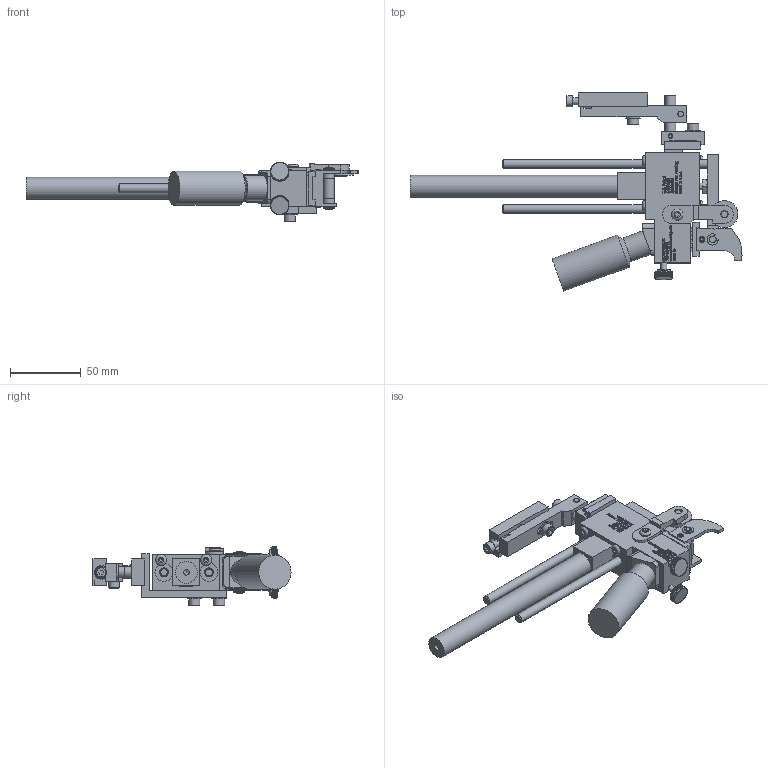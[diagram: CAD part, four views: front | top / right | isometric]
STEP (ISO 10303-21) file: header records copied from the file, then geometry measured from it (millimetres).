
FILE_DESCRIPTION((''),'2;1');
FILE_NAME('C:\Documents and Settings\Ron\My Documents\Inventor\Sprinter Drawing\Machines in Inventor\Model 66\Type\Ext Str\E2\Brkt\Ret\Model 66 E2 type Ret w brkt mod 2012.stp','2012-02-29T08:26:32',('Ron'),(''),'Autodesk Inventor 2011','Autodesk Inventor 2011','');
FILE_SCHEMA(('AUTOMOTIVE_DESIGN { 1 0 10303 214 1 1 1 1 }'));
Length unit declared in the file: inch
Products named in the file (43): Model 66 E2 type Ret w brkt mod 2012; 66 Frame Body Assy Std w brkt; 66 Frame Body; Hexagon Socket Button Head Cap Screw - Inch 8 - 32 x 1/4; Hexagon Socket Head Cap Screw - Inch No. 8 - 32 UNC - 1 1/2; 66 Linear Bearing; 66 Ink; 66 INK BOTTLE; 66 Ink Pad; 66 Wheel Bracket; 8-32x0.25 Hexagon Socket Button Head Cap Screw ANSI/ASME B18.3; 44 Cam Wheel; 44 Wheel Retainer; 10 Ink Resevior Lock Screw; Model 66 Bracket; Model 66 RPB; rpb4; rpb3; rpb-1; rpb2; No. 10-24x0.88 Hexagon socket head cap screw ANSI/ASME B18.3; Type B - Plain Washer (Inch) No. 10 - narrow - Type B; 66 Machine Mounting Pivot Bracket; Pin - Hardened Ground Machine Dowel (Inch) 1/8 x 3/8; Rod Carrier Retracted E2; Rod Carrier Retracted; 66 Rod Carrier; Type A - Hexagon Socket Set Screw - Cup Point - Inch 8-32 UNC x 0.32; 66 PIVOT SHAFT; 66 PIVOT SHAFT LOCKING RING; 23 66 invert block; AS 1112 (4)  - Metric M6; 19 Rod Carrier Set Screws; 66 Spring; Hexagon Socket Set Screw - Flat Point - Inch 8-32 UNC x 0.32; 66 type clip; 66 Marking Head Plate; 44 & up Removable Marking Head Securing Post; 66-28; Part # 28 - number 66 stamp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
Assembly tree (59 placements, depth 5):
  Model 66 E2 type Ret w brkt mod 2012
    66 Frame Body Assy Std w brkt
      66 Frame Body
      Hexagon Socket Button Head Cap Screw - Inch 8 - 32 x 1/4  x4
      Hexagon Socket Head Cap Screw - Inch No. 8 - 32 UNC - 1 1/2  x2
      66 Linear Bearing  x2
      66 Ink
      66 INK BOTTLE
      66 Ink Pad
      66 Wheel Bracket
      8-32x0.25 Hexagon Socket Button Head Cap Screw ANSI/ASME B18.3
      44 Cam Wheel
      44 Wheel Retainer
      10 Ink Resevior Lock Screw  x2
      Model 66 Bracket
        Model 66 RPB
          rpb4
          rpb3
          rpb-1
          rpb2
          No. 10-24x0.88 Hexagon socket head cap screw ANSI/ASME B18.3  x5
          Type B - Plain Washer (Inch) No. 10 - narrow - Type B  x4
          66 Machine Mounting Pivot Bracket
          Pin - Hardened Ground Machine Dowel (Inch) 1/8 x 3/8  x2
    Rod Carrier Retracted E2
      Rod Carrier Retracted
        66 Rod Carrier
        Type A - Hexagon Socket Set Screw - Cup Point - Inch 8-32 UNC x 0.32
        66 PIVOT SHAFT
        66 PIVOT SHAFT LOCKING RING  x2
        23 66 invert block
        AS 1112 (4)  - Metric M6
        19 Rod Carrier Set Screws  x2
        66 Spring
        Hexagon Socket Set Screw - Flat Point - Inch 8-32 UNC x 0.32
        66 type clip
          66 Marking Head Plate
          44 & up Removable Marking Head Securing Post
          66-28
          Part # 28 - number 66 stamp
      E2  x2
    E2 Retracted
    10-32 PORTS DECAL
Bounding box: 234.01 x 139.56 x 42.07 mm (x, y, z)
Volume: 177968.4 mm3; surface area: 90014.5 mm2
Topology: 426 solids, 426 shells, 6307 faces, 15448 edges, 9548 vertices
Faces by surface type: plane 4352, bspline 1301, cylinder 551, cone 80, torus 23
Full cylindrical faces by diameter (mm): 1.575 x1, 2.54 x2, 2.642 x1, 3.175 x4, 3.2 x1, 3.302 x12, 3.658 x1, 3.683 x2, 3.962 x12, 4.064 x2, 4.166 x11, 4.318 x2, 4.699 x3, 4.75 x3, 4.775 x2, 4.826 x8, 4.864 x2, 4.917 x1, 5.08 x1, 5.156 x7, 5.182 x1, 5.359 x1, 5.556 x1, 6.223 x2, 6.325 x2, 6.35 x5, 6.426 x1, 6.604 x1, 6.858 x2, 7.353 x2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
Entity records: 150147 total; most frequent: CARTESIAN_POINT 44655, ORIENTED_EDGE 23348, DIRECTION 16755, EDGE_CURVE 11674, VECTOR 8277, LINE 8277, VERTEX_POINT 7484, EDGE_LOOP 5214
